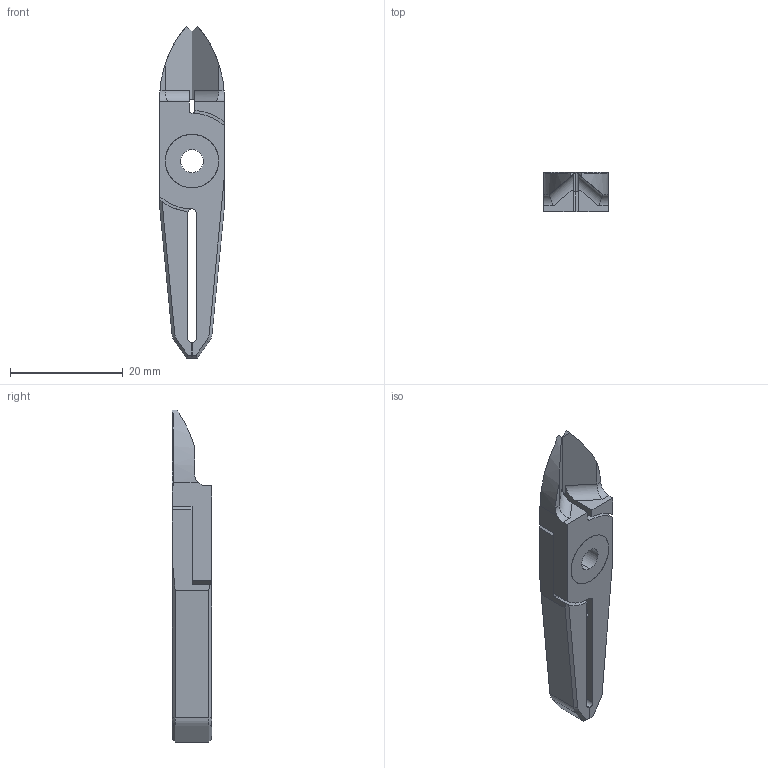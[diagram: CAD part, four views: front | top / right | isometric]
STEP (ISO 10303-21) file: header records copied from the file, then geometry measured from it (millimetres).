
FILE_DESCRIPTION (( 'STEP AP214' ), '1' );
FILE_NAME ('NT03AJ.STEP', '2019-11-28T05:25:42', ( '微软用户' ), ( '微软中国' ), 'SwSTEP 2.0', 'SolidWorks 2016', '' );
FILE_SCHEMA (( 'AUTOMOTIVE_DESIGN' ));
Length unit declared in the file: millimetre
Products named in the file (1): NT03AJ
Bounding box: 11.5 x 7 x 59 mm (x, y, z)
Surface area: 3188 mm2 (no closed solid volume)
Topology: 0 solids, 6 shells, 110 faces, 312 edges, 200 vertices
Faces by surface type: plane 52, cylinder 38, cone 20
Entity records: 4674 total; most frequent: CARTESIAN_POINT 1805, DIRECTION 608, ORIENTED_EDGE 572, EDGE_CURVE 308, AXIS2_PLACEMENT_3D 215, VERTEX_POINT 200, LINE 178, VECTOR 178
